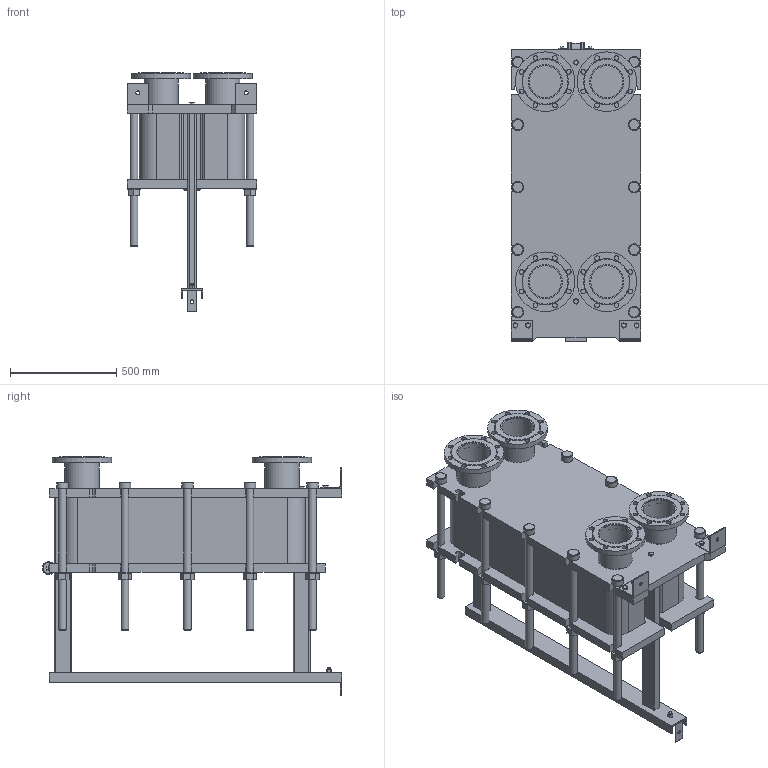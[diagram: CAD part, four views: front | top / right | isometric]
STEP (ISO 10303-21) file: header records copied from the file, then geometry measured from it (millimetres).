
FILE_DESCRIPTION(/* description */ (''),/* implementation_level */ '2;1');
FILE_NAME(/* name */ 'C:\Users\zhuro\Desktop\ENCO\TO\ЭН-041\ЭН-0,5-041-91-1.stp',/* time_stamp */ '2022-06-06T10:57:17+03:00',/* author */ ('zhuro'),/* organization */ (''),/* preprocessor_version */ 'ST-DEVELOPER v18.1',/* originating_system */ 'Autodesk Inventor 2022',/* authorisation */ '');
FILE_SCHEMA (('AUTOMOTIVE_DESIGN { 1 0 10303 214 3 1 1 }'));
Length unit declared in the file: millimetre
Products named in the file (1): ЭН-0,5-041-91-1
Bounding box: 610 x 1406.5 x 1122.5 mm (x, y, z)
Volume: 256417882.5 mm3; surface area: 8826068.5 mm2
Topology: 52 solids, 52 shells, 711 faces, 1696 edges, 1094 vertices
Faces by surface type: plane 487, cylinder 177, cone 41, torus 6
Full cylindrical faces by diameter (mm): 8 x4, 10 x2, 16 x8, 18 x3, 22 x32, 36 x24, 50 x1, 54 x10, 60 x12, 151 x4, 161 x8, 280 x4
Entity records: 22667 total; most frequent: CARTESIAN_POINT 5230, DIRECTION 3644, ORIENTED_EDGE 3392, EDGE_CURVE 1696, AXIS2_PLACEMENT_3D 1272, LINE 1100, VECTOR 1100, VERTEX_POINT 1094
